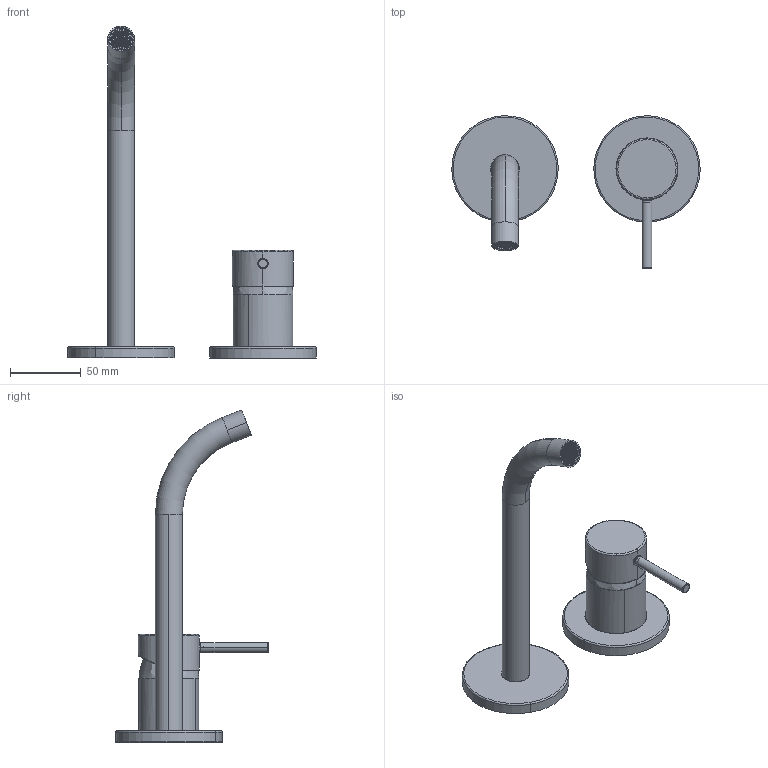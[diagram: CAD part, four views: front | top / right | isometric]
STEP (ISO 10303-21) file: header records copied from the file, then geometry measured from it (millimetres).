
FILE_DESCRIPTION (( 'STEP AP203' ), '1' );
FILE_NAME ('57932171.STEP', '2021-10-12T12:37:42', ( '' ), ( '' ), 'SwSTEP 2.0', 'SolidWorks 2016', '' );
FILE_SCHEMA (( 'CONFIG_CONTROL_DESIGN' ));
Products named in the file (1): 57932171
Bounding box: 174.97 x 107.59 x 233.87 mm (x, y, z)
Volume: 74723 mm3; surface area: 77178.1 mm2
Topology: 7 solids, 7 shells, 2724 faces, 7020 edges, 4319 vertices
Faces by surface type: plane 1787, cylinder 641, bspline 190, torus 56, cone 31, sphere 19
Entity records: 93383 total; most frequent: CARTESIAN_POINT 33822, ORIENTED_EDGE 13988, DIRECTION 9547, EDGE_CURVE 6994, VERTEX_POINT 4312, LINE 3449, VECTOR 3449, EDGE_LOOP 3050
